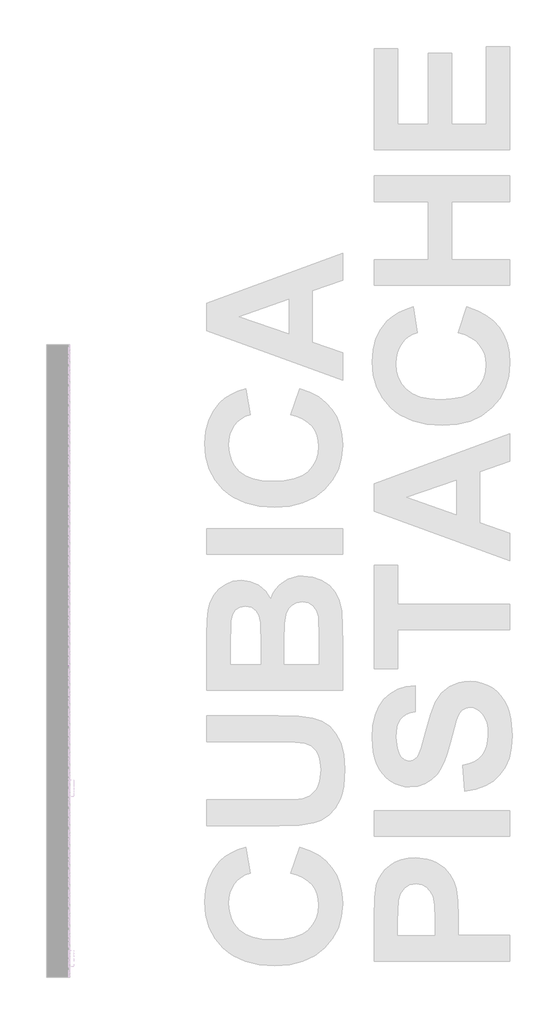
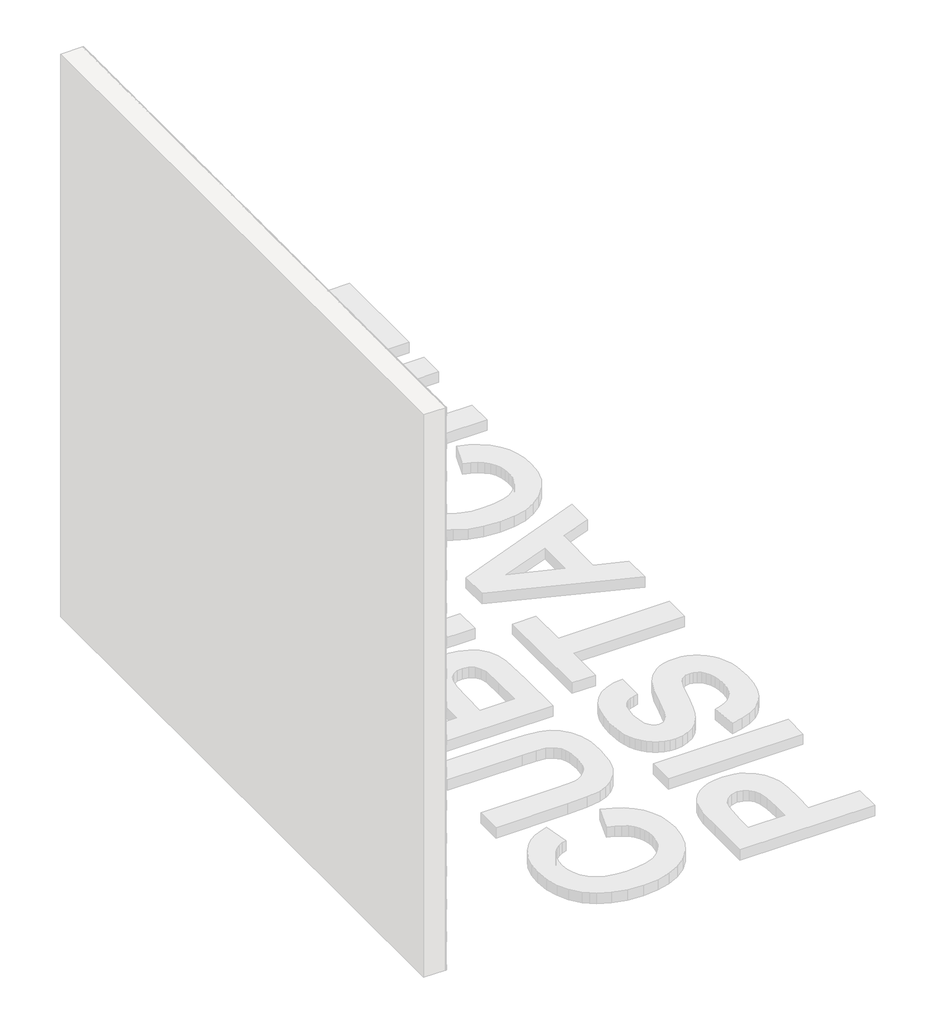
# One storey, part 89 of 121: 145 proxies.
"""IFC4 building model written with IfcOpenShell, lengths in millimetres."""

from ifc_helpers import new_model, si_unit, origin, place, context, project, spatial, transform, mapped, element, save
from components import generic_models_b2b2c5c1, generic_models_9bf73f6f, generic_models_5d175859

model = new_model("IFC4")

# Units and contexts
model_context = context("Model", 3, world=origin())
ifc_project = project(units=[si_unit("LENGTHUNIT", "METRE", prefix="MILLI")], contexts=[model_context])

# Site, building, storey
site = spatial("IfcSite", under=ifc_project)
building = spatial("IfcBuilding", under=site)
storey = spatial("IfcBuildingStorey", under=building, Name="PORTOBELLO - SHOWROOM", Elevation=0.0)

# Proxies
placement = place(None, origin())
generic_models_shape = generic_models_b2b2c5c1(model_context)
element("IfcBuildingElementProxy", 1, Name="PBSHOP - CUBICA PISTACHE 4,8X8,3 : CUBICA PISTACHE - POSIÇÃO 01", ObjectType="PBSHOP - CUBICA PISTACHE 4,8X8,3 : CUBICA PISTACHE - POSIÇÃO 01", at=placement, inside=storey, context=model_context, shape_type="MappedRepresentation", body=[
    mapped(generic_models_shape, transform((150369.5341846, 14068.297515, 1775.984211), x_axis=(0.0, 1.0, 0.0), y_axis=(0.0, 0.0, 1.0), z_axis=(1.0, 0.0, 0.0))),
])
element("IfcBuildingElementProxy", 2, Name="PBSHOP - CUBICA PISTACHE 4,8X8,3 : CUBICA PISTACHE - POSIÇÃO 01", ObjectType="PBSHOP - CUBICA PISTACHE 4,8X8,3 : CUBICA PISTACHE - POSIÇÃO 01", at=placement, inside=storey, context=model_context, shape_type="MappedRepresentation", body=[
    mapped(generic_models_shape, transform((150369.5341846, 14159.1367842, 1775.984211), x_axis=(0.0, 1.0, 0.0), y_axis=(0.0, 0.0, 1.0), z_axis=(1.0, 0.0, 0.0))),
])
element("IfcBuildingElementProxy", 3, Name="PBSHOP - CUBICA PISTACHE 4,8X8,3 : CUBICA PISTACHE - POSIÇÃO 01", ObjectType="PBSHOP - CUBICA PISTACHE 4,8X8,3 : CUBICA PISTACHE - POSIÇÃO 01", at=placement, inside=storey, context=model_context, shape_type="MappedRepresentation", body=[
    mapped(generic_models_shape, transform((150369.5341846, 14249.9760535, 1775.984211), x_axis=(0.0, 1.0, 0.0), y_axis=(0.0, 0.0, 1.0), z_axis=(1.0, 0.0, 0.0))),
])
element("IfcBuildingElementProxy", 4, Name="PBSHOP - CUBICA PISTACHE 4,8X8,3 : CUBICA PISTACHE - POSIÇÃO 01", ObjectType="PBSHOP - CUBICA PISTACHE 4,8X8,3 : CUBICA PISTACHE - POSIÇÃO 01", at=placement, inside=storey, context=model_context, shape_type="MappedRepresentation", body=[
    mapped(generic_models_shape, transform((150369.5341846, 14340.8153227, 1775.984211), x_axis=(0.0, 1.0, 0.0), y_axis=(0.0, 0.0, 1.0), z_axis=(1.0, 0.0, 0.0))),
])
element("IfcBuildingElementProxy", 5, Name="PBSHOP - CUBICA PISTACHE 4,8X8,3 : CUBICA PISTACHE - POSIÇÃO 01", ObjectType="PBSHOP - CUBICA PISTACHE 4,8X8,3 : CUBICA PISTACHE - POSIÇÃO 01", at=placement, inside=storey, context=model_context, shape_type="MappedRepresentation", body=[
    mapped(generic_models_shape, transform((150369.5341846, 14431.654592, 1775.984211), x_axis=(0.0, 1.0, 0.0), y_axis=(0.0, 0.0, 1.0), z_axis=(1.0, 0.0, 0.0))),
])
element("IfcBuildingElementProxy", 6, Name="PBSHOP - CUBICA PISTACHE 4,8X8,3 : CUBICA PISTACHE - POSIÇÃO 01", ObjectType="PBSHOP - CUBICA PISTACHE 4,8X8,3 : CUBICA PISTACHE - POSIÇÃO 01", at=placement, inside=storey, context=model_context, shape_type="MappedRepresentation", body=[
    mapped(generic_models_shape, transform((150369.5341846, 14522.4938612, 1775.984211), x_axis=(0.0, 1.0, 0.0), y_axis=(0.0, 0.0, 1.0), z_axis=(1.0, 0.0, 0.0))),
])
element("IfcBuildingElementProxy", 7, Name="PBSHOP - CUBICA PISTACHE 4,8X8,3 : CUBICA PISTACHE - POSIÇÃO 01", ObjectType="PBSHOP - CUBICA PISTACHE 4,8X8,3 : CUBICA PISTACHE - POSIÇÃO 01", at=placement, inside=storey, context=model_context, shape_type="MappedRepresentation", body=[
    mapped(generic_models_shape, transform((150369.5341846, 14613.3331304, 1775.984211), x_axis=(0.0, 1.0, 0.0), y_axis=(0.0, 0.0, 1.0), z_axis=(1.0, 0.0, 0.0))),
])
element("IfcBuildingElementProxy", 8, Name="PBSHOP - CUBICA PISTACHE 4,8X8,3 : CUBICA PISTACHE - POSIÇÃO 01", ObjectType="PBSHOP - CUBICA PISTACHE 4,8X8,3 : CUBICA PISTACHE - POSIÇÃO 01", at=placement, inside=storey, context=model_context, shape_type="MappedRepresentation", body=[
    mapped(generic_models_shape, transform((150369.5341846, 14704.1723997, 1775.984211), x_axis=(0.0, 1.0, 0.0), y_axis=(0.0, 0.0, 1.0), z_axis=(1.0, 0.0, 0.0))),
])
element("IfcBuildingElementProxy", 9, Name="PBSHOP - CUBICA PISTACHE 4,8X8,3 : CUBICA PISTACHE - POSIÇÃO 01", ObjectType="PBSHOP - CUBICA PISTACHE 4,8X8,3 : CUBICA PISTACHE - POSIÇÃO 01", at=placement, inside=storey, context=model_context, shape_type="MappedRepresentation", body=[
    mapped(generic_models_shape, transform((150369.5341846, 14795.0116689, 1775.984211), x_axis=(0.0, 1.0, 0.0), y_axis=(0.0, 0.0, 1.0), z_axis=(1.0, 0.0, 0.0))),
])
element("IfcBuildingElementProxy", 10, Name="PBSHOP - CUBICA PISTACHE 4,8X8,3 : CUBICA PISTACHE - POSIÇÃO 01", ObjectType="PBSHOP - CUBICA PISTACHE 4,8X8,3 : CUBICA PISTACHE - POSIÇÃO 01", at=placement, inside=storey, context=model_context, shape_type="MappedRepresentation", body=[
    mapped(generic_models_shape, transform((150369.5341846, 14885.8509382, 1775.984211), x_axis=(0.0, 1.0, 0.0), y_axis=(0.0, 0.0, 1.0), z_axis=(1.0, 0.0, 0.0))),
])
element("IfcBuildingElementProxy", 11, Name="PBSHOP - CUBICA PISTACHE 4,8X8,3 : CUBICA PISTACHE - POSIÇÃO 01", ObjectType="PBSHOP - CUBICA PISTACHE 4,8X8,3 : CUBICA PISTACHE - POSIÇÃO 01", at=placement, inside=storey, context=model_context, shape_type="MappedRepresentation", body=[
    mapped(generic_models_shape, transform((150369.5341846, 14976.6902074, 1775.984211), x_axis=(0.0, 1.0, 0.0), y_axis=(0.0, 0.0, 1.0), z_axis=(1.0, 0.0, 0.0))),
])
element("IfcBuildingElementProxy", 12, Name="PBSHOP - CUBICA PISTACHE 4,8X8,3 : CUBICA PISTACHE - POSIÇÃO 01", ObjectType="PBSHOP - CUBICA PISTACHE 4,8X8,3 : CUBICA PISTACHE - POSIÇÃO 01", at=placement, inside=storey, context=model_context, shape_type="MappedRepresentation", body=[
    mapped(generic_models_shape, transform((150369.5341846, 14022.8778804, 1854.9188494), x_axis=(0.0, 1.0, 0.0), y_axis=(0.0, 0.0, 1.0), z_axis=(1.0, 0.0, 0.0))),
])
element("IfcBuildingElementProxy", 13, Name="PBSHOP - CUBICA PISTACHE 4,8X8,3 : CUBICA PISTACHE - POSIÇÃO 01", ObjectType="PBSHOP - CUBICA PISTACHE 4,8X8,3 : CUBICA PISTACHE - POSIÇÃO 01", at=placement, inside=storey, context=model_context, shape_type="MappedRepresentation", body=[
    mapped(generic_models_shape, transform((150369.5341846, 14113.7171496, 1854.9188494), x_axis=(0.0, 1.0, 0.0), y_axis=(0.0, 0.0, 1.0), z_axis=(1.0, 0.0, 0.0))),
])
element("IfcBuildingElementProxy", 14, Name="PBSHOP - CUBICA PISTACHE 4,8X8,3 : CUBICA PISTACHE - POSIÇÃO 01", ObjectType="PBSHOP - CUBICA PISTACHE 4,8X8,3 : CUBICA PISTACHE - POSIÇÃO 01", at=placement, inside=storey, context=model_context, shape_type="MappedRepresentation", body=[
    mapped(generic_models_shape, transform((150369.5341846, 14204.5564189, 1854.9188494), x_axis=(0.0, 1.0, 0.0), y_axis=(0.0, 0.0, 1.0), z_axis=(1.0, 0.0, 0.0))),
])
element("IfcBuildingElementProxy", 15, Name="PBSHOP - CUBICA PISTACHE 4,8X8,3 : CUBICA PISTACHE - POSIÇÃO 01", ObjectType="PBSHOP - CUBICA PISTACHE 4,8X8,3 : CUBICA PISTACHE - POSIÇÃO 01", at=placement, inside=storey, context=model_context, shape_type="MappedRepresentation", body=[
    mapped(generic_models_shape, transform((150369.5341846, 14295.3956881, 1854.9188494), x_axis=(0.0, 1.0, 0.0), y_axis=(0.0, 0.0, 1.0), z_axis=(1.0, 0.0, 0.0))),
])
element("IfcBuildingElementProxy", 16, Name="PBSHOP - CUBICA PISTACHE 4,8X8,3 : CUBICA PISTACHE - POSIÇÃO 01", ObjectType="PBSHOP - CUBICA PISTACHE 4,8X8,3 : CUBICA PISTACHE - POSIÇÃO 01", at=placement, inside=storey, context=model_context, shape_type="MappedRepresentation", body=[
    mapped(generic_models_shape, transform((150369.5341846, 14386.2349573, 1854.9188494), x_axis=(0.0, 1.0, 0.0), y_axis=(0.0, 0.0, 1.0), z_axis=(1.0, 0.0, 0.0))),
])
element("IfcBuildingElementProxy", 17, Name="PBSHOP - CUBICA PISTACHE 4,8X8,3 : CUBICA PISTACHE - POSIÇÃO 01", ObjectType="PBSHOP - CUBICA PISTACHE 4,8X8,3 : CUBICA PISTACHE - POSIÇÃO 01", at=placement, inside=storey, context=model_context, shape_type="MappedRepresentation", body=[
    mapped(generic_models_shape, transform((150369.5341846, 14477.0742266, 1854.9188494), x_axis=(0.0, 1.0, 0.0), y_axis=(0.0, 0.0, 1.0), z_axis=(1.0, 0.0, 0.0))),
])
element("IfcBuildingElementProxy", 18, Name="PBSHOP - CUBICA PISTACHE 4,8X8,3 : CUBICA PISTACHE - POSIÇÃO 01", ObjectType="PBSHOP - CUBICA PISTACHE 4,8X8,3 : CUBICA PISTACHE - POSIÇÃO 01", at=placement, inside=storey, context=model_context, shape_type="MappedRepresentation", body=[
    mapped(generic_models_shape, transform((150369.5341846, 14567.9134958, 1854.9188494), x_axis=(0.0, 1.0, 0.0), y_axis=(0.0, 0.0, 1.0), z_axis=(1.0, 0.0, 0.0))),
])
element("IfcBuildingElementProxy", 19, Name="PBSHOP - CUBICA PISTACHE 4,8X8,3 : CUBICA PISTACHE - POSIÇÃO 01", ObjectType="PBSHOP - CUBICA PISTACHE 4,8X8,3 : CUBICA PISTACHE - POSIÇÃO 01", at=placement, inside=storey, context=model_context, shape_type="MappedRepresentation", body=[
    mapped(generic_models_shape, transform((150369.5341846, 14658.7527651, 1854.9188494), x_axis=(0.0, 1.0, 0.0), y_axis=(0.0, 0.0, 1.0), z_axis=(1.0, 0.0, 0.0))),
])
element("IfcBuildingElementProxy", 20, Name="PBSHOP - CUBICA PISTACHE 4,8X8,3 : CUBICA PISTACHE - POSIÇÃO 01", ObjectType="PBSHOP - CUBICA PISTACHE 4,8X8,3 : CUBICA PISTACHE - POSIÇÃO 01", at=placement, inside=storey, context=model_context, shape_type="MappedRepresentation", body=[
    mapped(generic_models_shape, transform((150369.5341846, 14749.5920343, 1854.9188494), x_axis=(0.0, 1.0, 0.0), y_axis=(0.0, 0.0, 1.0), z_axis=(1.0, 0.0, 0.0))),
])
element("IfcBuildingElementProxy", 21, Name="PBSHOP - CUBICA PISTACHE 4,8X8,3 : CUBICA PISTACHE - POSIÇÃO 01", ObjectType="PBSHOP - CUBICA PISTACHE 4,8X8,3 : CUBICA PISTACHE - POSIÇÃO 01", at=placement, inside=storey, context=model_context, shape_type="MappedRepresentation", body=[
    mapped(generic_models_shape, transform((150369.5341846, 14840.4313036, 1854.9188494), x_axis=(0.0, 1.0, 0.0), y_axis=(0.0, 0.0, 1.0), z_axis=(1.0, 0.0, 0.0))),
])
element("IfcBuildingElementProxy", 22, Name="PBSHOP - CUBICA PISTACHE 4,8X8,3 : CUBICA PISTACHE - POSIÇÃO 01", ObjectType="PBSHOP - CUBICA PISTACHE 4,8X8,3 : CUBICA PISTACHE - POSIÇÃO 01", at=placement, inside=storey, context=model_context, shape_type="MappedRepresentation", body=[
    mapped(generic_models_shape, transform((150369.5341846, 14931.2705728, 1854.9188494), x_axis=(0.0, 1.0, 0.0), y_axis=(0.0, 0.0, 1.0), z_axis=(1.0, 0.0, 0.0))),
])
element("IfcBuildingElementProxy", 23, Name="PBSHOP - CUBICA PISTACHE 4,8X8,3 : CUBICA PISTACHE - POSIÇÃO 01", ObjectType="PBSHOP - CUBICA PISTACHE 4,8X8,3 : CUBICA PISTACHE - POSIÇÃO 01", at=placement, inside=storey, context=model_context, shape_type="MappedRepresentation", body=[
    mapped(generic_models_shape, transform((150369.5341846, 14068.297515, 1933.8534878), x_axis=(0.0, 1.0, 0.0), y_axis=(0.0, 0.0, 1.0), z_axis=(1.0, 0.0, 0.0))),
])
element("IfcBuildingElementProxy", 24, Name="PBSHOP - CUBICA PISTACHE 4,8X8,3 : CUBICA PISTACHE - POSIÇÃO 01", ObjectType="PBSHOP - CUBICA PISTACHE 4,8X8,3 : CUBICA PISTACHE - POSIÇÃO 01", at=placement, inside=storey, context=model_context, shape_type="MappedRepresentation", body=[
    mapped(generic_models_shape, transform((150369.5341846, 14159.1367842, 1933.8534878), x_axis=(0.0, 1.0, 0.0), y_axis=(0.0, 0.0, 1.0), z_axis=(1.0, 0.0, 0.0))),
])
element("IfcBuildingElementProxy", 25, Name="PBSHOP - CUBICA PISTACHE 4,8X8,3 : CUBICA PISTACHE - POSIÇÃO 01", ObjectType="PBSHOP - CUBICA PISTACHE 4,8X8,3 : CUBICA PISTACHE - POSIÇÃO 01", at=placement, inside=storey, context=model_context, shape_type="MappedRepresentation", body=[
    mapped(generic_models_shape, transform((150369.5341846, 14249.9760535, 1933.8534878), x_axis=(0.0, 1.0, 0.0), y_axis=(0.0, 0.0, 1.0), z_axis=(1.0, 0.0, 0.0))),
])
element("IfcBuildingElementProxy", 26, Name="PBSHOP - CUBICA PISTACHE 4,8X8,3 : CUBICA PISTACHE - POSIÇÃO 01", ObjectType="PBSHOP - CUBICA PISTACHE 4,8X8,3 : CUBICA PISTACHE - POSIÇÃO 01", at=placement, inside=storey, context=model_context, shape_type="MappedRepresentation", body=[
    mapped(generic_models_shape, transform((150369.5341846, 14340.8153227, 1933.8534878), x_axis=(0.0, 1.0, 0.0), y_axis=(0.0, 0.0, 1.0), z_axis=(1.0, 0.0, 0.0))),
])
element("IfcBuildingElementProxy", 27, Name="PBSHOP - CUBICA PISTACHE 4,8X8,3 : CUBICA PISTACHE - POSIÇÃO 01", ObjectType="PBSHOP - CUBICA PISTACHE 4,8X8,3 : CUBICA PISTACHE - POSIÇÃO 01", at=placement, inside=storey, context=model_context, shape_type="MappedRepresentation", body=[
    mapped(generic_models_shape, transform((150369.5341846, 14431.654592, 1933.8534878), x_axis=(0.0, 1.0, 0.0), y_axis=(0.0, 0.0, 1.0), z_axis=(1.0, 0.0, 0.0))),
])
element("IfcBuildingElementProxy", 28, Name="PBSHOP - CUBICA PISTACHE 4,8X8,3 : CUBICA PISTACHE - POSIÇÃO 01", ObjectType="PBSHOP - CUBICA PISTACHE 4,8X8,3 : CUBICA PISTACHE - POSIÇÃO 01", at=placement, inside=storey, context=model_context, shape_type="MappedRepresentation", body=[
    mapped(generic_models_shape, transform((150369.5341846, 14522.4938612, 1933.8534878), x_axis=(0.0, 1.0, 0.0), y_axis=(0.0, 0.0, 1.0), z_axis=(1.0, 0.0, 0.0))),
])
element("IfcBuildingElementProxy", 29, Name="PBSHOP - CUBICA PISTACHE 4,8X8,3 : CUBICA PISTACHE - POSIÇÃO 01", ObjectType="PBSHOP - CUBICA PISTACHE 4,8X8,3 : CUBICA PISTACHE - POSIÇÃO 01", at=placement, inside=storey, context=model_context, shape_type="MappedRepresentation", body=[
    mapped(generic_models_shape, transform((150369.5341846, 14613.3331304, 1933.8534878), x_axis=(0.0, 1.0, 0.0), y_axis=(0.0, 0.0, 1.0), z_axis=(1.0, 0.0, 0.0))),
])
element("IfcBuildingElementProxy", 30, Name="PBSHOP - CUBICA PISTACHE 4,8X8,3 : CUBICA PISTACHE - POSIÇÃO 01", ObjectType="PBSHOP - CUBICA PISTACHE 4,8X8,3 : CUBICA PISTACHE - POSIÇÃO 01", at=placement, inside=storey, context=model_context, shape_type="MappedRepresentation", body=[
    mapped(generic_models_shape, transform((150369.5341846, 14704.1723997, 1933.8534878), x_axis=(0.0, 1.0, 0.0), y_axis=(0.0, 0.0, 1.0), z_axis=(1.0, 0.0, 0.0))),
])
element("IfcBuildingElementProxy", 31, Name="PBSHOP - CUBICA PISTACHE 4,8X8,3 : CUBICA PISTACHE - POSIÇÃO 01", ObjectType="PBSHOP - CUBICA PISTACHE 4,8X8,3 : CUBICA PISTACHE - POSIÇÃO 01", at=placement, inside=storey, context=model_context, shape_type="MappedRepresentation", body=[
    mapped(generic_models_shape, transform((150369.5341846, 14795.0116689, 1933.8534878), x_axis=(0.0, 1.0, 0.0), y_axis=(0.0, 0.0, 1.0), z_axis=(1.0, 0.0, 0.0))),
])
element("IfcBuildingElementProxy", 32, Name="PBSHOP - CUBICA PISTACHE 4,8X8,3 : CUBICA PISTACHE - POSIÇÃO 01", ObjectType="PBSHOP - CUBICA PISTACHE 4,8X8,3 : CUBICA PISTACHE - POSIÇÃO 01", at=placement, inside=storey, context=model_context, shape_type="MappedRepresentation", body=[
    mapped(generic_models_shape, transform((150369.5341846, 14885.8509382, 1933.8534878), x_axis=(0.0, 1.0, 0.0), y_axis=(0.0, 0.0, 1.0), z_axis=(1.0, 0.0, 0.0))),
])
element("IfcBuildingElementProxy", 33, Name="PBSHOP - CUBICA PISTACHE 4,8X8,3 : CUBICA PISTACHE - POSIÇÃO 01", ObjectType="PBSHOP - CUBICA PISTACHE 4,8X8,3 : CUBICA PISTACHE - POSIÇÃO 01", at=placement, inside=storey, context=model_context, shape_type="MappedRepresentation", body=[
    mapped(generic_models_shape, transform((150369.5341846, 14976.6902074, 1933.8534878), x_axis=(0.0, 1.0, 0.0), y_axis=(0.0, 0.0, 1.0), z_axis=(1.0, 0.0, 0.0))),
])
element("IfcBuildingElementProxy", 34, Name="PBSHOP - CUBICA PISTACHE 4,8X8,3 : CUBICA PISTACHE - POSIÇÃO 01", ObjectType="PBSHOP - CUBICA PISTACHE 4,8X8,3 : CUBICA PISTACHE - POSIÇÃO 01", at=placement, inside=storey, context=model_context, shape_type="MappedRepresentation", body=[
    mapped(generic_models_shape, transform((150369.5341846, 14022.8778804, 2012.7881262), x_axis=(0.0, 1.0, 0.0), y_axis=(0.0, 0.0, 1.0), z_axis=(1.0, 0.0, 0.0))),
])
element("IfcBuildingElementProxy", 35, Name="PBSHOP - CUBICA PISTACHE 4,8X8,3 : CUBICA PISTACHE - POSIÇÃO 01", ObjectType="PBSHOP - CUBICA PISTACHE 4,8X8,3 : CUBICA PISTACHE - POSIÇÃO 01", at=placement, inside=storey, context=model_context, shape_type="MappedRepresentation", body=[
    mapped(generic_models_shape, transform((150369.5341846, 14113.7171496, 2012.7881262), x_axis=(0.0, 1.0, 0.0), y_axis=(0.0, 0.0, 1.0), z_axis=(1.0, 0.0, 0.0))),
])
element("IfcBuildingElementProxy", 36, Name="PBSHOP - CUBICA PISTACHE 4,8X8,3 : CUBICA PISTACHE - POSIÇÃO 01", ObjectType="PBSHOP - CUBICA PISTACHE 4,8X8,3 : CUBICA PISTACHE - POSIÇÃO 01", at=placement, inside=storey, context=model_context, shape_type="MappedRepresentation", body=[
    mapped(generic_models_shape, transform((150369.5341846, 14204.5564189, 2012.7881262), x_axis=(0.0, 1.0, 0.0), y_axis=(0.0, 0.0, 1.0), z_axis=(1.0, 0.0, 0.0))),
])
element("IfcBuildingElementProxy", 37, Name="PBSHOP - CUBICA PISTACHE 4,8X8,3 : CUBICA PISTACHE - POSIÇÃO 01", ObjectType="PBSHOP - CUBICA PISTACHE 4,8X8,3 : CUBICA PISTACHE - POSIÇÃO 01", at=placement, inside=storey, context=model_context, shape_type="MappedRepresentation", body=[
    mapped(generic_models_shape, transform((150369.5341846, 14295.3956881, 2012.7881262), x_axis=(0.0, 1.0, 0.0), y_axis=(0.0, 0.0, 1.0), z_axis=(1.0, 0.0, 0.0))),
])
element("IfcBuildingElementProxy", 38, Name="PBSHOP - CUBICA PISTACHE 4,8X8,3 : CUBICA PISTACHE - POSIÇÃO 01", ObjectType="PBSHOP - CUBICA PISTACHE 4,8X8,3 : CUBICA PISTACHE - POSIÇÃO 01", at=placement, inside=storey, context=model_context, shape_type="MappedRepresentation", body=[
    mapped(generic_models_shape, transform((150369.5341846, 14386.2349573, 2012.7881262), x_axis=(0.0, 1.0, 0.0), y_axis=(0.0, 0.0, 1.0), z_axis=(1.0, 0.0, 0.0))),
])
element("IfcBuildingElementProxy", 39, Name="PBSHOP - CUBICA PISTACHE 4,8X8,3 : CUBICA PISTACHE - POSIÇÃO 01", ObjectType="PBSHOP - CUBICA PISTACHE 4,8X8,3 : CUBICA PISTACHE - POSIÇÃO 01", at=placement, inside=storey, context=model_context, shape_type="MappedRepresentation", body=[
    mapped(generic_models_shape, transform((150369.5341846, 14477.0742266, 2012.7881262), x_axis=(0.0, 1.0, 0.0), y_axis=(0.0, 0.0, 1.0), z_axis=(1.0, 0.0, 0.0))),
])
element("IfcBuildingElementProxy", 40, Name="PBSHOP - CUBICA PISTACHE 4,8X8,3 : CUBICA PISTACHE - POSIÇÃO 01", ObjectType="PBSHOP - CUBICA PISTACHE 4,8X8,3 : CUBICA PISTACHE - POSIÇÃO 01", at=placement, inside=storey, context=model_context, shape_type="MappedRepresentation", body=[
    mapped(generic_models_shape, transform((150369.5341846, 14567.9134958, 2012.7881262), x_axis=(0.0, 1.0, 0.0), y_axis=(0.0, 0.0, 1.0), z_axis=(1.0, 0.0, 0.0))),
])
element("IfcBuildingElementProxy", 41, Name="PBSHOP - CUBICA PISTACHE 4,8X8,3 : CUBICA PISTACHE - POSIÇÃO 01", ObjectType="PBSHOP - CUBICA PISTACHE 4,8X8,3 : CUBICA PISTACHE - POSIÇÃO 01", at=placement, inside=storey, context=model_context, shape_type="MappedRepresentation", body=[
    mapped(generic_models_shape, transform((150369.5341846, 14658.7527651, 2012.7881262), x_axis=(0.0, 1.0, 0.0), y_axis=(0.0, 0.0, 1.0), z_axis=(1.0, 0.0, 0.0))),
])
element("IfcBuildingElementProxy", 42, Name="PBSHOP - CUBICA PISTACHE 4,8X8,3 : CUBICA PISTACHE - POSIÇÃO 01", ObjectType="PBSHOP - CUBICA PISTACHE 4,8X8,3 : CUBICA PISTACHE - POSIÇÃO 01", at=placement, inside=storey, context=model_context, shape_type="MappedRepresentation", body=[
    mapped(generic_models_shape, transform((150369.5341846, 14749.5920343, 2012.7881262), x_axis=(0.0, 1.0, 0.0), y_axis=(0.0, 0.0, 1.0), z_axis=(1.0, 0.0, 0.0))),
])
element("IfcBuildingElementProxy", 43, Name="PBSHOP - CUBICA PISTACHE 4,8X8,3 : CUBICA PISTACHE - POSIÇÃO 01", ObjectType="PBSHOP - CUBICA PISTACHE 4,8X8,3 : CUBICA PISTACHE - POSIÇÃO 01", at=placement, inside=storey, context=model_context, shape_type="MappedRepresentation", body=[
    mapped(generic_models_shape, transform((150369.5341846, 14840.4313036, 2012.7881262), x_axis=(0.0, 1.0, 0.0), y_axis=(0.0, 0.0, 1.0), z_axis=(1.0, 0.0, 0.0))),
])
element("IfcBuildingElementProxy", 44, Name="PBSHOP - CUBICA PISTACHE 4,8X8,3 : CUBICA PISTACHE - POSIÇÃO 01", ObjectType="PBSHOP - CUBICA PISTACHE 4,8X8,3 : CUBICA PISTACHE - POSIÇÃO 01", at=placement, inside=storey, context=model_context, shape_type="MappedRepresentation", body=[
    mapped(generic_models_shape, transform((150369.5341846, 14931.2705728, 2012.7881262), x_axis=(0.0, 1.0, 0.0), y_axis=(0.0, 0.0, 1.0), z_axis=(1.0, 0.0, 0.0))),
])
element("IfcBuildingElementProxy", 45, Name="PBSHOP - CUBICA PISTACHE 4,8X8,3 : CUBICA PISTACHE - POSIÇÃO 01", ObjectType="PBSHOP - CUBICA PISTACHE 4,8X8,3 : CUBICA PISTACHE - POSIÇÃO 01", at=placement, inside=storey, context=model_context, shape_type="MappedRepresentation", body=[
    mapped(generic_models_shape, transform((150369.5341846, 14068.297515, 2091.7227645), x_axis=(0.0, 1.0, 0.0), y_axis=(0.0, 0.0, 1.0), z_axis=(1.0, 0.0, 0.0))),
])
generic_models_2_shape = generic_models_9bf73f6f(model_context)
element("IfcBuildingElementProxy", 46, Name="PBSHOP - CUBICA PISTACHE 4,8X8,3 : CUBICA PISTACHE - POSIÇÃO 03", ObjectType="PBSHOP - CUBICA PISTACHE 4,8X8,3 : CUBICA PISTACHE - POSIÇÃO 03", at=placement, inside=storey, context=model_context, shape_type="MappedRepresentation", body=[
    mapped(generic_models_2_shape, transform((150369.5341846, 14363.5272992, 1657.5410431), x_axis=(0.0, 1.0, 0.0), y_axis=(0.0, 0.0, 1.0), z_axis=(1.0, 0.0, 0.0))),
])
element("IfcBuildingElementProxy", 47, Name="PBSHOP - CUBICA PISTACHE 4,8X8,3 : CUBICA PISTACHE - POSIÇÃO 03", ObjectType="PBSHOP - CUBICA PISTACHE 4,8X8,3 : CUBICA PISTACHE - POSIÇÃO 03", at=placement, inside=storey, context=model_context, shape_type="MappedRepresentation", body=[
    mapped(generic_models_2_shape, transform((150369.5341846, 14454.3665684, 1657.5410431), x_axis=(0.0, 1.0, 0.0), y_axis=(0.0, 0.0, 1.0), z_axis=(1.0, 0.0, 0.0))),
])
element("IfcBuildingElementProxy", 48, Name="PBSHOP - CUBICA PISTACHE 4,8X8,3 : CUBICA PISTACHE - POSIÇÃO 03", ObjectType="PBSHOP - CUBICA PISTACHE 4,8X8,3 : CUBICA PISTACHE - POSIÇÃO 03", at=placement, inside=storey, context=model_context, shape_type="MappedRepresentation", body=[
    mapped(generic_models_2_shape, transform((150369.5341846, 14545.2058377, 1657.5410431), x_axis=(0.0, 1.0, 0.0), y_axis=(0.0, 0.0, 1.0), z_axis=(1.0, 0.0, 0.0))),
])
element("IfcBuildingElementProxy", 49, Name="PBSHOP - CUBICA PISTACHE 4,8X8,3 : CUBICA PISTACHE - POSIÇÃO 03", ObjectType="PBSHOP - CUBICA PISTACHE 4,8X8,3 : CUBICA PISTACHE - POSIÇÃO 03", at=placement, inside=storey, context=model_context, shape_type="MappedRepresentation", body=[
    mapped(generic_models_2_shape, transform((150369.5341846, 14636.0451069, 1657.5410431), x_axis=(0.0, 1.0, 0.0), y_axis=(0.0, 0.0, 1.0), z_axis=(1.0, 0.0, 0.0))),
])
element("IfcBuildingElementProxy", 50, Name="PBSHOP - CUBICA PISTACHE 4,8X8,3 : CUBICA PISTACHE - POSIÇÃO 03", ObjectType="PBSHOP - CUBICA PISTACHE 4,8X8,3 : CUBICA PISTACHE - POSIÇÃO 03", at=placement, inside=storey, context=model_context, shape_type="MappedRepresentation", body=[
    mapped(generic_models_2_shape, transform((150369.5341846, 14726.8843762, 1657.5410431), x_axis=(0.0, 1.0, 0.0), y_axis=(0.0, 0.0, 1.0), z_axis=(1.0, 0.0, 0.0))),
])
element("IfcBuildingElementProxy", 51, Name="PBSHOP - CUBICA PISTACHE 4,8X8,3 : CUBICA PISTACHE - POSIÇÃO 03", ObjectType="PBSHOP - CUBICA PISTACHE 4,8X8,3 : CUBICA PISTACHE - POSIÇÃO 03", at=placement, inside=storey, context=model_context, shape_type="MappedRepresentation", body=[
    mapped(generic_models_2_shape, transform((150369.5341846, 14817.7236454, 1657.5410431), x_axis=(0.0, 1.0, 0.0), y_axis=(0.0, 0.0, 1.0), z_axis=(1.0, 0.0, 0.0))),
])
element("IfcBuildingElementProxy", 52, Name="PBSHOP - CUBICA PISTACHE 4,8X8,3 : CUBICA PISTACHE - POSIÇÃO 03", ObjectType="PBSHOP - CUBICA PISTACHE 4,8X8,3 : CUBICA PISTACHE - POSIÇÃO 03", at=placement, inside=storey, context=model_context, shape_type="MappedRepresentation", body=[
    mapped(generic_models_2_shape, transform((150369.5341846, 14908.5629147, 1657.5410431), x_axis=(0.0, 1.0, 0.0), y_axis=(0.0, 0.0, 1.0), z_axis=(1.0, 0.0, 0.0))),
])
element("IfcBuildingElementProxy", 53, Name="PBSHOP - CUBICA PISTACHE 4,8X8,3 : CUBICA PISTACHE - POSIÇÃO 03", ObjectType="PBSHOP - CUBICA PISTACHE 4,8X8,3 : CUBICA PISTACHE - POSIÇÃO 03", at=placement, inside=storey, context=model_context, shape_type="MappedRepresentation", body=[
    mapped(generic_models_2_shape, transform((150369.5341846, 14999.4021839, 1657.5410431), x_axis=(0.0, 1.0, 0.0), y_axis=(0.0, 0.0, 1.0), z_axis=(1.0, 0.0, 0.0))),
])
element("IfcBuildingElementProxy", 54, Name="PBSHOP - CUBICA PISTACHE 4,8X8,3 : CUBICA PISTACHE - POSIÇÃO 03", ObjectType="PBSHOP - CUBICA PISTACHE 4,8X8,3 : CUBICA PISTACHE - POSIÇÃO 03", at=placement, inside=storey, context=model_context, shape_type="MappedRepresentation", body=[
    mapped(generic_models_2_shape, transform((150369.5341846, 14045.5898568, 1736.4756814), x_axis=(0.0, 1.0, 0.0), y_axis=(0.0, 0.0, 1.0), z_axis=(1.0, 0.0, 0.0))),
])
element("IfcBuildingElementProxy", 55, Name="PBSHOP - CUBICA PISTACHE 4,8X8,3 : CUBICA PISTACHE - POSIÇÃO 03", ObjectType="PBSHOP - CUBICA PISTACHE 4,8X8,3 : CUBICA PISTACHE - POSIÇÃO 03", at=placement, inside=storey, context=model_context, shape_type="MappedRepresentation", body=[
    mapped(generic_models_2_shape, transform((150369.5341846, 14136.4291261, 1736.4756814), x_axis=(0.0, 1.0, 0.0), y_axis=(0.0, 0.0, 1.0), z_axis=(1.0, 0.0, 0.0))),
])
element("IfcBuildingElementProxy", 56, Name="PBSHOP - CUBICA PISTACHE 4,8X8,3 : CUBICA PISTACHE - POSIÇÃO 03", ObjectType="PBSHOP - CUBICA PISTACHE 4,8X8,3 : CUBICA PISTACHE - POSIÇÃO 03", at=placement, inside=storey, context=model_context, shape_type="MappedRepresentation", body=[
    mapped(generic_models_2_shape, transform((150369.5341846, 14227.2683953, 1736.4756814), x_axis=(0.0, 1.0, 0.0), y_axis=(0.0, 0.0, 1.0), z_axis=(1.0, 0.0, 0.0))),
])
element("IfcBuildingElementProxy", 57, Name="PBSHOP - CUBICA PISTACHE 4,8X8,3 : CUBICA PISTACHE - POSIÇÃO 03", ObjectType="PBSHOP - CUBICA PISTACHE 4,8X8,3 : CUBICA PISTACHE - POSIÇÃO 03", at=placement, inside=storey, context=model_context, shape_type="MappedRepresentation", body=[
    mapped(generic_models_2_shape, transform((150369.5341846, 14318.1076646, 1736.4756814), x_axis=(0.0, 1.0, 0.0), y_axis=(0.0, 0.0, 1.0), z_axis=(1.0, 0.0, 0.0))),
])
element("IfcBuildingElementProxy", 58, Name="PBSHOP - CUBICA PISTACHE 4,8X8,3 : CUBICA PISTACHE - POSIÇÃO 03", ObjectType="PBSHOP - CUBICA PISTACHE 4,8X8,3 : CUBICA PISTACHE - POSIÇÃO 03", at=placement, inside=storey, context=model_context, shape_type="MappedRepresentation", body=[
    mapped(generic_models_2_shape, transform((150369.5341846, 14408.9469338, 1736.4756814), x_axis=(0.0, 1.0, 0.0), y_axis=(0.0, 0.0, 1.0), z_axis=(1.0, 0.0, 0.0))),
])
element("IfcBuildingElementProxy", 59, Name="PBSHOP - CUBICA PISTACHE 4,8X8,3 : CUBICA PISTACHE - POSIÇÃO 03", ObjectType="PBSHOP - CUBICA PISTACHE 4,8X8,3 : CUBICA PISTACHE - POSIÇÃO 03", at=placement, inside=storey, context=model_context, shape_type="MappedRepresentation", body=[
    mapped(generic_models_2_shape, transform((150369.5341846, 14499.7862031, 1736.4756814), x_axis=(0.0, 1.0, 0.0), y_axis=(0.0, 0.0, 1.0), z_axis=(1.0, 0.0, 0.0))),
])
element("IfcBuildingElementProxy", 60, Name="PBSHOP - CUBICA PISTACHE 4,8X8,3 : CUBICA PISTACHE - POSIÇÃO 03", ObjectType="PBSHOP - CUBICA PISTACHE 4,8X8,3 : CUBICA PISTACHE - POSIÇÃO 03", at=placement, inside=storey, context=model_context, shape_type="MappedRepresentation", body=[
    mapped(generic_models_2_shape, transform((150369.5341846, 14590.6254723, 1736.4756814), x_axis=(0.0, 1.0, 0.0), y_axis=(0.0, 0.0, 1.0), z_axis=(1.0, 0.0, 0.0))),
])
element("IfcBuildingElementProxy", 61, Name="PBSHOP - CUBICA PISTACHE 4,8X8,3 : CUBICA PISTACHE - POSIÇÃO 03", ObjectType="PBSHOP - CUBICA PISTACHE 4,8X8,3 : CUBICA PISTACHE - POSIÇÃO 03", at=placement, inside=storey, context=model_context, shape_type="MappedRepresentation", body=[
    mapped(generic_models_2_shape, transform((150369.5341846, 14681.4647415, 1736.4756814), x_axis=(0.0, 1.0, 0.0), y_axis=(0.0, 0.0, 1.0), z_axis=(1.0, 0.0, 0.0))),
])
element("IfcBuildingElementProxy", 62, Name="PBSHOP - CUBICA PISTACHE 4,8X8,3 : CUBICA PISTACHE - POSIÇÃO 03", ObjectType="PBSHOP - CUBICA PISTACHE 4,8X8,3 : CUBICA PISTACHE - POSIÇÃO 03", at=placement, inside=storey, context=model_context, shape_type="MappedRepresentation", body=[
    mapped(generic_models_2_shape, transform((150369.5341846, 14772.3040108, 1736.4756814), x_axis=(0.0, 1.0, 0.0), y_axis=(0.0, 0.0, 1.0), z_axis=(1.0, 0.0, 0.0))),
])
element("IfcBuildingElementProxy", 63, Name="PBSHOP - CUBICA PISTACHE 4,8X8,3 : CUBICA PISTACHE - POSIÇÃO 03", ObjectType="PBSHOP - CUBICA PISTACHE 4,8X8,3 : CUBICA PISTACHE - POSIÇÃO 03", at=placement, inside=storey, context=model_context, shape_type="MappedRepresentation", body=[
    mapped(generic_models_2_shape, transform((150369.5341846, 14863.14328, 1736.4756814), x_axis=(0.0, 1.0, 0.0), y_axis=(0.0, 0.0, 1.0), z_axis=(1.0, 0.0, 0.0))),
])
element("IfcBuildingElementProxy", 64, Name="PBSHOP - CUBICA PISTACHE 4,8X8,3 : CUBICA PISTACHE - POSIÇÃO 03", ObjectType="PBSHOP - CUBICA PISTACHE 4,8X8,3 : CUBICA PISTACHE - POSIÇÃO 03", at=placement, inside=storey, context=model_context, shape_type="MappedRepresentation", body=[
    mapped(generic_models_2_shape, transform((150369.5341846, 14953.9825493, 1736.4756814), x_axis=(0.0, 1.0, 0.0), y_axis=(0.0, 0.0, 1.0), z_axis=(1.0, 0.0, 0.0))),
])
element("IfcBuildingElementProxy", 65, Name="PBSHOP - CUBICA PISTACHE 4,8X8,3 : CUBICA PISTACHE - POSIÇÃO 03", ObjectType="PBSHOP - CUBICA PISTACHE 4,8X8,3 : CUBICA PISTACHE - POSIÇÃO 03", at=placement, inside=storey, context=model_context, shape_type="MappedRepresentation", body=[
    mapped(generic_models_2_shape, transform((150369.5341846, 14000.1702222, 1815.4103198), x_axis=(0.0, 1.0, 0.0), y_axis=(0.0, 0.0, 1.0), z_axis=(1.0, 0.0, 0.0))),
])
element("IfcBuildingElementProxy", 66, Name="PBSHOP - CUBICA PISTACHE 4,8X8,3 : CUBICA PISTACHE - POSIÇÃO 03", ObjectType="PBSHOP - CUBICA PISTACHE 4,8X8,3 : CUBICA PISTACHE - POSIÇÃO 03", at=placement, inside=storey, context=model_context, shape_type="MappedRepresentation", body=[
    mapped(generic_models_2_shape, transform((150369.5341846, 14091.0094915, 1815.4103198), x_axis=(0.0, 1.0, 0.0), y_axis=(0.0, 0.0, 1.0), z_axis=(1.0, 0.0, 0.0))),
])
element("IfcBuildingElementProxy", 67, Name="PBSHOP - CUBICA PISTACHE 4,8X8,3 : CUBICA PISTACHE - POSIÇÃO 03", ObjectType="PBSHOP - CUBICA PISTACHE 4,8X8,3 : CUBICA PISTACHE - POSIÇÃO 03", at=placement, inside=storey, context=model_context, shape_type="MappedRepresentation", body=[
    mapped(generic_models_2_shape, transform((150369.5341846, 14181.8487607, 1815.4103198), x_axis=(0.0, 1.0, 0.0), y_axis=(0.0, 0.0, 1.0), z_axis=(1.0, 0.0, 0.0))),
])
element("IfcBuildingElementProxy", 68, Name="PBSHOP - CUBICA PISTACHE 4,8X8,3 : CUBICA PISTACHE - POSIÇÃO 03", ObjectType="PBSHOP - CUBICA PISTACHE 4,8X8,3 : CUBICA PISTACHE - POSIÇÃO 03", at=placement, inside=storey, context=model_context, shape_type="MappedRepresentation", body=[
    mapped(generic_models_2_shape, transform((150369.5341846, 14272.6880299, 1815.4103198), x_axis=(0.0, 1.0, 0.0), y_axis=(0.0, 0.0, 1.0), z_axis=(1.0, 0.0, 0.0))),
])
element("IfcBuildingElementProxy", 69, Name="PBSHOP - CUBICA PISTACHE 4,8X8,3 : CUBICA PISTACHE - POSIÇÃO 03", ObjectType="PBSHOP - CUBICA PISTACHE 4,8X8,3 : CUBICA PISTACHE - POSIÇÃO 03", at=placement, inside=storey, context=model_context, shape_type="MappedRepresentation", body=[
    mapped(generic_models_2_shape, transform((150369.5341846, 14363.5272992, 1815.4103198), x_axis=(0.0, 1.0, 0.0), y_axis=(0.0, 0.0, 1.0), z_axis=(1.0, 0.0, 0.0))),
])
element("IfcBuildingElementProxy", 70, Name="PBSHOP - CUBICA PISTACHE 4,8X8,3 : CUBICA PISTACHE - POSIÇÃO 03", ObjectType="PBSHOP - CUBICA PISTACHE 4,8X8,3 : CUBICA PISTACHE - POSIÇÃO 03", at=placement, inside=storey, context=model_context, shape_type="MappedRepresentation", body=[
    mapped(generic_models_2_shape, transform((150369.5341846, 14454.3665684, 1815.4103198), x_axis=(0.0, 1.0, 0.0), y_axis=(0.0, 0.0, 1.0), z_axis=(1.0, 0.0, 0.0))),
])
element("IfcBuildingElementProxy", 71, Name="PBSHOP - CUBICA PISTACHE 4,8X8,3 : CUBICA PISTACHE - POSIÇÃO 03", ObjectType="PBSHOP - CUBICA PISTACHE 4,8X8,3 : CUBICA PISTACHE - POSIÇÃO 03", at=placement, inside=storey, context=model_context, shape_type="MappedRepresentation", body=[
    mapped(generic_models_2_shape, transform((150369.5341846, 14545.2058377, 1815.4103198), x_axis=(0.0, 1.0, 0.0), y_axis=(0.0, 0.0, 1.0), z_axis=(1.0, 0.0, 0.0))),
])
element("IfcBuildingElementProxy", 72, Name="PBSHOP - CUBICA PISTACHE 4,8X8,3 : CUBICA PISTACHE - POSIÇÃO 03", ObjectType="PBSHOP - CUBICA PISTACHE 4,8X8,3 : CUBICA PISTACHE - POSIÇÃO 03", at=placement, inside=storey, context=model_context, shape_type="MappedRepresentation", body=[
    mapped(generic_models_2_shape, transform((150369.5341846, 14636.0451069, 1815.4103198), x_axis=(0.0, 1.0, 0.0), y_axis=(0.0, 0.0, 1.0), z_axis=(1.0, 0.0, 0.0))),
])
element("IfcBuildingElementProxy", 73, Name="PBSHOP - CUBICA PISTACHE 4,8X8,3 : CUBICA PISTACHE - POSIÇÃO 03", ObjectType="PBSHOP - CUBICA PISTACHE 4,8X8,3 : CUBICA PISTACHE - POSIÇÃO 03", at=placement, inside=storey, context=model_context, shape_type="MappedRepresentation", body=[
    mapped(generic_models_2_shape, transform((150369.5341846, 14726.8843762, 1815.4103198), x_axis=(0.0, 1.0, 0.0), y_axis=(0.0, 0.0, 1.0), z_axis=(1.0, 0.0, 0.0))),
])
element("IfcBuildingElementProxy", 74, Name="PBSHOP - CUBICA PISTACHE 4,8X8,3 : CUBICA PISTACHE - POSIÇÃO 03", ObjectType="PBSHOP - CUBICA PISTACHE 4,8X8,3 : CUBICA PISTACHE - POSIÇÃO 03", at=placement, inside=storey, context=model_context, shape_type="MappedRepresentation", body=[
    mapped(generic_models_2_shape, transform((150369.5341846, 14817.7236454, 1815.4103198), x_axis=(0.0, 1.0, 0.0), y_axis=(0.0, 0.0, 1.0), z_axis=(1.0, 0.0, 0.0))),
])
element("IfcBuildingElementProxy", 75, Name="PBSHOP - CUBICA PISTACHE 4,8X8,3 : CUBICA PISTACHE - POSIÇÃO 03", ObjectType="PBSHOP - CUBICA PISTACHE 4,8X8,3 : CUBICA PISTACHE - POSIÇÃO 03", at=placement, inside=storey, context=model_context, shape_type="MappedRepresentation", body=[
    mapped(generic_models_2_shape, transform((150369.5341846, 14908.5629147, 1815.4103198), x_axis=(0.0, 1.0, 0.0), y_axis=(0.0, 0.0, 1.0), z_axis=(1.0, 0.0, 0.0))),
])
element("IfcBuildingElementProxy", 76, Name="PBSHOP - CUBICA PISTACHE 4,8X8,3 : CUBICA PISTACHE - POSIÇÃO 03", ObjectType="PBSHOP - CUBICA PISTACHE 4,8X8,3 : CUBICA PISTACHE - POSIÇÃO 03", at=placement, inside=storey, context=model_context, shape_type="MappedRepresentation", body=[
    mapped(generic_models_2_shape, transform((150369.5341846, 14999.4021839, 1815.4103198), x_axis=(0.0, 1.0, 0.0), y_axis=(0.0, 0.0, 1.0), z_axis=(1.0, 0.0, 0.0))),
])
element("IfcBuildingElementProxy", 77, Name="PBSHOP - CUBICA PISTACHE 4,8X8,3 : CUBICA PISTACHE - POSIÇÃO 03", ObjectType="PBSHOP - CUBICA PISTACHE 4,8X8,3 : CUBICA PISTACHE - POSIÇÃO 03", at=placement, inside=storey, context=model_context, shape_type="MappedRepresentation", body=[
    mapped(generic_models_2_shape, transform((150369.5341846, 14045.5898568, 1894.3449582), x_axis=(0.0, 1.0, 0.0), y_axis=(0.0, 0.0, 1.0), z_axis=(1.0, 0.0, 0.0))),
])
element("IfcBuildingElementProxy", 78, Name="PBSHOP - CUBICA PISTACHE 4,8X8,3 : CUBICA PISTACHE - POSIÇÃO 03", ObjectType="PBSHOP - CUBICA PISTACHE 4,8X8,3 : CUBICA PISTACHE - POSIÇÃO 03", at=placement, inside=storey, context=model_context, shape_type="MappedRepresentation", body=[
    mapped(generic_models_2_shape, transform((150369.5341846, 14136.4291261, 1894.3449582), x_axis=(0.0, 1.0, 0.0), y_axis=(0.0, 0.0, 1.0), z_axis=(1.0, 0.0, 0.0))),
])
element("IfcBuildingElementProxy", 79, Name="PBSHOP - CUBICA PISTACHE 4,8X8,3 : CUBICA PISTACHE - POSIÇÃO 03", ObjectType="PBSHOP - CUBICA PISTACHE 4,8X8,3 : CUBICA PISTACHE - POSIÇÃO 03", at=placement, inside=storey, context=model_context, shape_type="MappedRepresentation", body=[
    mapped(generic_models_2_shape, transform((150369.5341846, 14227.2683953, 1894.3449582), x_axis=(0.0, 1.0, 0.0), y_axis=(0.0, 0.0, 1.0), z_axis=(1.0, 0.0, 0.0))),
])
element("IfcBuildingElementProxy", 80, Name="PBSHOP - CUBICA PISTACHE 4,8X8,3 : CUBICA PISTACHE - POSIÇÃO 03", ObjectType="PBSHOP - CUBICA PISTACHE 4,8X8,3 : CUBICA PISTACHE - POSIÇÃO 03", at=placement, inside=storey, context=model_context, shape_type="MappedRepresentation", body=[
    mapped(generic_models_2_shape, transform((150369.5341846, 14318.1076646, 1894.3449582), x_axis=(0.0, 1.0, 0.0), y_axis=(0.0, 0.0, 1.0), z_axis=(1.0, 0.0, 0.0))),
])
element("IfcBuildingElementProxy", 81, Name="PBSHOP - CUBICA PISTACHE 4,8X8,3 : CUBICA PISTACHE - POSIÇÃO 03", ObjectType="PBSHOP - CUBICA PISTACHE 4,8X8,3 : CUBICA PISTACHE - POSIÇÃO 03", at=placement, inside=storey, context=model_context, shape_type="MappedRepresentation", body=[
    mapped(generic_models_2_shape, transform((150369.5341846, 14408.9469338, 1894.3449582), x_axis=(0.0, 1.0, 0.0), y_axis=(0.0, 0.0, 1.0), z_axis=(1.0, 0.0, 0.0))),
])
element("IfcBuildingElementProxy", 82, Name="PBSHOP - CUBICA PISTACHE 4,8X8,3 : CUBICA PISTACHE - POSIÇÃO 03", ObjectType="PBSHOP - CUBICA PISTACHE 4,8X8,3 : CUBICA PISTACHE - POSIÇÃO 03", at=placement, inside=storey, context=model_context, shape_type="MappedRepresentation", body=[
    mapped(generic_models_2_shape, transform((150369.5341846, 14499.7862031, 1894.3449582), x_axis=(0.0, 1.0, 0.0), y_axis=(0.0, 0.0, 1.0), z_axis=(1.0, 0.0, 0.0))),
])
element("IfcBuildingElementProxy", 83, Name="PBSHOP - CUBICA PISTACHE 4,8X8,3 : CUBICA PISTACHE - POSIÇÃO 03", ObjectType="PBSHOP - CUBICA PISTACHE 4,8X8,3 : CUBICA PISTACHE - POSIÇÃO 03", at=placement, inside=storey, context=model_context, shape_type="MappedRepresentation", body=[
    mapped(generic_models_2_shape, transform((150369.5341846, 14590.6254723, 1894.3449582), x_axis=(0.0, 1.0, 0.0), y_axis=(0.0, 0.0, 1.0), z_axis=(1.0, 0.0, 0.0))),
])
element("IfcBuildingElementProxy", 84, Name="PBSHOP - CUBICA PISTACHE 4,8X8,3 : CUBICA PISTACHE - POSIÇÃO 03", ObjectType="PBSHOP - CUBICA PISTACHE 4,8X8,3 : CUBICA PISTACHE - POSIÇÃO 03", at=placement, inside=storey, context=model_context, shape_type="MappedRepresentation", body=[
    mapped(generic_models_2_shape, transform((150369.5341846, 14681.4647415, 1894.3449582), x_axis=(0.0, 1.0, 0.0), y_axis=(0.0, 0.0, 1.0), z_axis=(1.0, 0.0, 0.0))),
])
element("IfcBuildingElementProxy", 85, Name="PBSHOP - CUBICA PISTACHE 4,8X8,3 : CUBICA PISTACHE - POSIÇÃO 03", ObjectType="PBSHOP - CUBICA PISTACHE 4,8X8,3 : CUBICA PISTACHE - POSIÇÃO 03", at=placement, inside=storey, context=model_context, shape_type="MappedRepresentation", body=[
    mapped(generic_models_2_shape, transform((150369.5341846, 14772.3040108, 1894.3449582), x_axis=(0.0, 1.0, 0.0), y_axis=(0.0, 0.0, 1.0), z_axis=(1.0, 0.0, 0.0))),
])
element("IfcBuildingElementProxy", 86, Name="PBSHOP - CUBICA PISTACHE 4,8X8,3 : CUBICA PISTACHE - POSIÇÃO 03", ObjectType="PBSHOP - CUBICA PISTACHE 4,8X8,3 : CUBICA PISTACHE - POSIÇÃO 03", at=placement, inside=storey, context=model_context, shape_type="MappedRepresentation", body=[
    mapped(generic_models_2_shape, transform((150369.5341846, 14863.14328, 1894.3449582), x_axis=(0.0, 1.0, 0.0), y_axis=(0.0, 0.0, 1.0), z_axis=(1.0, 0.0, 0.0))),
])
element("IfcBuildingElementProxy", 87, Name="PBSHOP - CUBICA PISTACHE 4,8X8,3 : CUBICA PISTACHE - POSIÇÃO 03", ObjectType="PBSHOP - CUBICA PISTACHE 4,8X8,3 : CUBICA PISTACHE - POSIÇÃO 03", at=placement, inside=storey, context=model_context, shape_type="MappedRepresentation", body=[
    mapped(generic_models_2_shape, transform((150369.5341846, 14953.9825493, 1894.3449582), x_axis=(0.0, 1.0, 0.0), y_axis=(0.0, 0.0, 1.0), z_axis=(1.0, 0.0, 0.0))),
])
element("IfcBuildingElementProxy", 88, Name="PBSHOP - CUBICA PISTACHE 4,8X8,3 : CUBICA PISTACHE - POSIÇÃO 03", ObjectType="PBSHOP - CUBICA PISTACHE 4,8X8,3 : CUBICA PISTACHE - POSIÇÃO 03", at=placement, inside=storey, context=model_context, shape_type="MappedRepresentation", body=[
    mapped(generic_models_2_shape, transform((150369.5341846, 14000.1702222, 1973.2795966), x_axis=(0.0, 1.0, 0.0), y_axis=(0.0, 0.0, 1.0), z_axis=(1.0, 0.0, 0.0))),
])
element("IfcBuildingElementProxy", 89, Name="PBSHOP - CUBICA PISTACHE 4,8X8,3 : CUBICA PISTACHE - POSIÇÃO 03", ObjectType="PBSHOP - CUBICA PISTACHE 4,8X8,3 : CUBICA PISTACHE - POSIÇÃO 03", at=placement, inside=storey, context=model_context, shape_type="MappedRepresentation", body=[
    mapped(generic_models_2_shape, transform((150369.5341846, 14091.0094915, 1973.2795966), x_axis=(0.0, 1.0, 0.0), y_axis=(0.0, 0.0, 1.0), z_axis=(1.0, 0.0, 0.0))),
])
element("IfcBuildingElementProxy", 90, Name="PBSHOP - CUBICA PISTACHE 4,8X8,3 : CUBICA PISTACHE - POSIÇÃO 03", ObjectType="PBSHOP - CUBICA PISTACHE 4,8X8,3 : CUBICA PISTACHE - POSIÇÃO 03", at=placement, inside=storey, context=model_context, shape_type="MappedRepresentation", body=[
    mapped(generic_models_2_shape, transform((150369.5341846, 14181.8487607, 1973.2795966), x_axis=(0.0, 1.0, 0.0), y_axis=(0.0, 0.0, 1.0), z_axis=(1.0, 0.0, 0.0))),
])
element("IfcBuildingElementProxy", 91, Name="PBSHOP - CUBICA PISTACHE 4,8X8,3 : CUBICA PISTACHE - POSIÇÃO 03", ObjectType="PBSHOP - CUBICA PISTACHE 4,8X8,3 : CUBICA PISTACHE - POSIÇÃO 03", at=placement, inside=storey, context=model_context, shape_type="MappedRepresentation", body=[
    mapped(generic_models_2_shape, transform((150369.5341846, 14272.6880299, 1973.2795966), x_axis=(0.0, 1.0, 0.0), y_axis=(0.0, 0.0, 1.0), z_axis=(1.0, 0.0, 0.0))),
])
element("IfcBuildingElementProxy", 92, Name="PBSHOP - CUBICA PISTACHE 4,8X8,3 : CUBICA PISTACHE - POSIÇÃO 03", ObjectType="PBSHOP - CUBICA PISTACHE 4,8X8,3 : CUBICA PISTACHE - POSIÇÃO 03", at=placement, inside=storey, context=model_context, shape_type="MappedRepresentation", body=[
    mapped(generic_models_2_shape, transform((150369.5341846, 14363.5272992, 1973.2795966), x_axis=(0.0, 1.0, 0.0), y_axis=(0.0, 0.0, 1.0), z_axis=(1.0, 0.0, 0.0))),
])
element("IfcBuildingElementProxy", 93, Name="PBSHOP - CUBICA PISTACHE 4,8X8,3 : CUBICA PISTACHE - POSIÇÃO 03", ObjectType="PBSHOP - CUBICA PISTACHE 4,8X8,3 : CUBICA PISTACHE - POSIÇÃO 03", at=placement, inside=storey, context=model_context, shape_type="MappedRepresentation", body=[
    mapped(generic_models_2_shape, transform((150369.5341846, 14454.3665684, 1973.2795966), x_axis=(0.0, 1.0, 0.0), y_axis=(0.0, 0.0, 1.0), z_axis=(1.0, 0.0, 0.0))),
])
element("IfcBuildingElementProxy", 94, Name="PBSHOP - CUBICA PISTACHE 4,8X8,3 : CUBICA PISTACHE - POSIÇÃO 03", ObjectType="PBSHOP - CUBICA PISTACHE 4,8X8,3 : CUBICA PISTACHE - POSIÇÃO 03", at=placement, inside=storey, context=model_context, shape_type="MappedRepresentation", body=[
    mapped(generic_models_2_shape, transform((150369.5341846, 14545.2058377, 1973.2795966), x_axis=(0.0, 1.0, 0.0), y_axis=(0.0, 0.0, 1.0), z_axis=(1.0, 0.0, 0.0))),
])
element("IfcBuildingElementProxy", 95, Name="PBSHOP - CUBICA PISTACHE 4,8X8,3 : CUBICA PISTACHE - POSIÇÃO 03", ObjectType="PBSHOP - CUBICA PISTACHE 4,8X8,3 : CUBICA PISTACHE - POSIÇÃO 03", at=placement, inside=storey, context=model_context, shape_type="MappedRepresentation", body=[
    mapped(generic_models_2_shape, transform((150369.5341846, 14636.0451069, 1973.2795966), x_axis=(0.0, 1.0, 0.0), y_axis=(0.0, 0.0, 1.0), z_axis=(1.0, 0.0, 0.0))),
])
element("IfcBuildingElementProxy", 96, Name="PBSHOP - CUBICA PISTACHE 4,8X8,3 : CUBICA PISTACHE - POSIÇÃO 03", ObjectType="PBSHOP - CUBICA PISTACHE 4,8X8,3 : CUBICA PISTACHE - POSIÇÃO 03", at=placement, inside=storey, context=model_context, shape_type="MappedRepresentation", body=[
    mapped(generic_models_2_shape, transform((150369.5341846, 14726.8843762, 1973.2795966), x_axis=(0.0, 1.0, 0.0), y_axis=(0.0, 0.0, 1.0), z_axis=(1.0, 0.0, 0.0))),
])
element("IfcBuildingElementProxy", 97, Name="PBSHOP - CUBICA PISTACHE 4,8X8,3 : CUBICA PISTACHE - POSIÇÃO 03", ObjectType="PBSHOP - CUBICA PISTACHE 4,8X8,3 : CUBICA PISTACHE - POSIÇÃO 03", at=placement, inside=storey, context=model_context, shape_type="MappedRepresentation", body=[
    mapped(generic_models_2_shape, transform((150369.5341846, 14817.7236454, 1973.2795966), x_axis=(0.0, 1.0, 0.0), y_axis=(0.0, 0.0, 1.0), z_axis=(1.0, 0.0, 0.0))),
])
element("IfcBuildingElementProxy", 98, Name="PBSHOP - CUBICA PISTACHE 4,8X8,3 : CUBICA PISTACHE - POSIÇÃO 03", ObjectType="PBSHOP - CUBICA PISTACHE 4,8X8,3 : CUBICA PISTACHE - POSIÇÃO 03", at=placement, inside=storey, context=model_context, shape_type="MappedRepresentation", body=[
    mapped(generic_models_2_shape, transform((150369.5341846, 14908.5629147, 1973.2795966), x_axis=(0.0, 1.0, 0.0), y_axis=(0.0, 0.0, 1.0), z_axis=(1.0, 0.0, 0.0))),
])
element("IfcBuildingElementProxy", 99, Name="PBSHOP - CUBICA PISTACHE 4,8X8,3 : CUBICA PISTACHE - POSIÇÃO 03", ObjectType="PBSHOP - CUBICA PISTACHE 4,8X8,3 : CUBICA PISTACHE - POSIÇÃO 03", at=placement, inside=storey, context=model_context, shape_type="MappedRepresentation", body=[
    mapped(generic_models_2_shape, transform((150369.5341846, 14999.4021839, 1973.2795966), x_axis=(0.0, 1.0, 0.0), y_axis=(0.0, 0.0, 1.0), z_axis=(1.0, 0.0, 0.0))),
])
generic_models_3_shape = generic_models_5d175859(model_context)
element("IfcBuildingElementProxy", 100, Name="PBSHOP - CUBICA PISTACHE 4,8X8,3 : CUBICA PISTACHE - POSIÇÃO 01", ObjectType="PBSHOP - CUBICA PISTACHE 4,8X8,3 : CUBICA PISTACHE - POSIÇÃO 01", at=placement, inside=storey, context=model_context, shape_type="MappedRepresentation", body=[
    mapped(generic_models_3_shape, transform((150369.5341846, 14022.8821987, 1775.984211), x_axis=(0.0, -1.0, 0.0), y_axis=(0.0, 0.0, -1.0), z_axis=(1.0, 0.0, 0.0))),
])
element("IfcBuildingElementProxy", 101, Name="PBSHOP - CUBICA PISTACHE 4,8X8,3 : CUBICA PISTACHE - POSIÇÃO 01", ObjectType="PBSHOP - CUBICA PISTACHE 4,8X8,3 : CUBICA PISTACHE - POSIÇÃO 01", at=placement, inside=storey, context=model_context, shape_type="MappedRepresentation", body=[
    mapped(generic_models_3_shape, transform((150369.5341846, 14113.7214679, 1775.984211), x_axis=(0.0, -1.0, 0.0), y_axis=(0.0, 0.0, -1.0), z_axis=(1.0, 0.0, 0.0))),
])
element("IfcBuildingElementProxy", 102, Name="PBSHOP - CUBICA PISTACHE 4,8X8,3 : CUBICA PISTACHE - POSIÇÃO 01", ObjectType="PBSHOP - CUBICA PISTACHE 4,8X8,3 : CUBICA PISTACHE - POSIÇÃO 01", at=placement, inside=storey, context=model_context, shape_type="MappedRepresentation", body=[
    mapped(generic_models_3_shape, transform((150369.5341846, 14204.5607372, 1775.984211), x_axis=(0.0, -1.0, 0.0), y_axis=(0.0, 0.0, -1.0), z_axis=(1.0, 0.0, 0.0))),
])
element("IfcBuildingElementProxy", 103, Name="PBSHOP - CUBICA PISTACHE 4,8X8,3 : CUBICA PISTACHE - POSIÇÃO 01", ObjectType="PBSHOP - CUBICA PISTACHE 4,8X8,3 : CUBICA PISTACHE - POSIÇÃO 01", at=placement, inside=storey, context=model_context, shape_type="MappedRepresentation", body=[
    mapped(generic_models_3_shape, transform((150369.5341846, 14295.4000064, 1775.984211), x_axis=(0.0, -1.0, 0.0), y_axis=(0.0, 0.0, -1.0), z_axis=(1.0, 0.0, 0.0))),
])
element("IfcBuildingElementProxy", 104, Name="PBSHOP - CUBICA PISTACHE 4,8X8,3 : CUBICA PISTACHE - POSIÇÃO 01", ObjectType="PBSHOP - CUBICA PISTACHE 4,8X8,3 : CUBICA PISTACHE - POSIÇÃO 01", at=placement, inside=storey, context=model_context, shape_type="MappedRepresentation", body=[
    mapped(generic_models_3_shape, transform((150369.5341846, 14386.2392757, 1775.984211), x_axis=(0.0, -1.0, 0.0), y_axis=(0.0, 0.0, -1.0), z_axis=(1.0, 0.0, 0.0))),
])
element("IfcBuildingElementProxy", 105, Name="PBSHOP - CUBICA PISTACHE 4,8X8,3 : CUBICA PISTACHE - POSIÇÃO 01", ObjectType="PBSHOP - CUBICA PISTACHE 4,8X8,3 : CUBICA PISTACHE - POSIÇÃO 01", at=placement, inside=storey, context=model_context, shape_type="MappedRepresentation", body=[
    mapped(generic_models_3_shape, transform((150369.5341846, 14477.0785449, 1775.984211), x_axis=(0.0, -1.0, 0.0), y_axis=(0.0, 0.0, -1.0), z_axis=(1.0, 0.0, 0.0))),
])
element("IfcBuildingElementProxy", 106, Name="PBSHOP - CUBICA PISTACHE 4,8X8,3 : CUBICA PISTACHE - POSIÇÃO 01", ObjectType="PBSHOP - CUBICA PISTACHE 4,8X8,3 : CUBICA PISTACHE - POSIÇÃO 01", at=placement, inside=storey, context=model_context, shape_type="MappedRepresentation", body=[
    mapped(generic_models_3_shape, transform((150369.5341846, 14567.9178142, 1775.984211), x_axis=(0.0, -1.0, 0.0), y_axis=(0.0, 0.0, -1.0), z_axis=(1.0, 0.0, 0.0))),
])
element("IfcBuildingElementProxy", 107, Name="PBSHOP - CUBICA PISTACHE 4,8X8,3 : CUBICA PISTACHE - POSIÇÃO 01", ObjectType="PBSHOP - CUBICA PISTACHE 4,8X8,3 : CUBICA PISTACHE - POSIÇÃO 01", at=placement, inside=storey, context=model_context, shape_type="MappedRepresentation", body=[
    mapped(generic_models_3_shape, transform((150369.5341846, 14658.7570834, 1775.984211), x_axis=(0.0, -1.0, 0.0), y_axis=(0.0, 0.0, -1.0), z_axis=(1.0, 0.0, 0.0))),
])
element("IfcBuildingElementProxy", 108, Name="PBSHOP - CUBICA PISTACHE 4,8X8,3 : CUBICA PISTACHE - POSIÇÃO 01", ObjectType="PBSHOP - CUBICA PISTACHE 4,8X8,3 : CUBICA PISTACHE - POSIÇÃO 01", at=placement, inside=storey, context=model_context, shape_type="MappedRepresentation", body=[
    mapped(generic_models_3_shape, transform((150369.5341846, 14749.5963526, 1775.984211), x_axis=(0.0, -1.0, 0.0), y_axis=(0.0, 0.0, -1.0), z_axis=(1.0, 0.0, 0.0))),
])
element("IfcBuildingElementProxy", 109, Name="PBSHOP - CUBICA PISTACHE 4,8X8,3 : CUBICA PISTACHE - POSIÇÃO 01", ObjectType="PBSHOP - CUBICA PISTACHE 4,8X8,3 : CUBICA PISTACHE - POSIÇÃO 01", at=placement, inside=storey, context=model_context, shape_type="MappedRepresentation", body=[
    mapped(generic_models_3_shape, transform((150369.5341846, 14840.4356219, 1775.984211), x_axis=(0.0, -1.0, 0.0), y_axis=(0.0, 0.0, -1.0), z_axis=(1.0, 0.0, 0.0))),
])
element("IfcBuildingElementProxy", 110, Name="PBSHOP - CUBICA PISTACHE 4,8X8,3 : CUBICA PISTACHE - POSIÇÃO 01", ObjectType="PBSHOP - CUBICA PISTACHE 4,8X8,3 : CUBICA PISTACHE - POSIÇÃO 01", at=placement, inside=storey, context=model_context, shape_type="MappedRepresentation", body=[
    mapped(generic_models_3_shape, transform((150369.5341846, 14931.2748911, 1775.984211), x_axis=(0.0, -1.0, 0.0), y_axis=(0.0, 0.0, -1.0), z_axis=(1.0, 0.0, 0.0))),
])
element("IfcBuildingElementProxy", 111, Name="PBSHOP - CUBICA PISTACHE 4,8X8,3 : CUBICA PISTACHE - POSIÇÃO 01", ObjectType="PBSHOP - CUBICA PISTACHE 4,8X8,3 : CUBICA PISTACHE - POSIÇÃO 01", at=placement, inside=storey, context=model_context, shape_type="MappedRepresentation", body=[
    mapped(generic_models_3_shape, transform((150369.5341846, 14068.3018333, 1854.9188494), x_axis=(0.0, -1.0, 0.0), y_axis=(0.0, 0.0, -1.0), z_axis=(1.0, 0.0, 0.0))),
])
element("IfcBuildingElementProxy", 112, Name="PBSHOP - CUBICA PISTACHE 4,8X8,3 : CUBICA PISTACHE - POSIÇÃO 01", ObjectType="PBSHOP - CUBICA PISTACHE 4,8X8,3 : CUBICA PISTACHE - POSIÇÃO 01", at=placement, inside=storey, context=model_context, shape_type="MappedRepresentation", body=[
    mapped(generic_models_3_shape, transform((150369.5341846, 14159.1411026, 1854.9188494), x_axis=(0.0, -1.0, 0.0), y_axis=(0.0, 0.0, -1.0), z_axis=(1.0, 0.0, 0.0))),
])
element("IfcBuildingElementProxy", 113, Name="PBSHOP - CUBICA PISTACHE 4,8X8,3 : CUBICA PISTACHE - POSIÇÃO 01", ObjectType="PBSHOP - CUBICA PISTACHE 4,8X8,3 : CUBICA PISTACHE - POSIÇÃO 01", at=placement, inside=storey, context=model_context, shape_type="MappedRepresentation", body=[
    mapped(generic_models_3_shape, transform((150369.5341846, 14249.9803718, 1854.9188494), x_axis=(0.0, -1.0, 0.0), y_axis=(0.0, 0.0, -1.0), z_axis=(1.0, 0.0, 0.0))),
])
element("IfcBuildingElementProxy", 114, Name="PBSHOP - CUBICA PISTACHE 4,8X8,3 : CUBICA PISTACHE - POSIÇÃO 01", ObjectType="PBSHOP - CUBICA PISTACHE 4,8X8,3 : CUBICA PISTACHE - POSIÇÃO 01", at=placement, inside=storey, context=model_context, shape_type="MappedRepresentation", body=[
    mapped(generic_models_3_shape, transform((150369.5341846, 14340.819641, 1854.9188494), x_axis=(0.0, -1.0, 0.0), y_axis=(0.0, 0.0, -1.0), z_axis=(1.0, 0.0, 0.0))),
])
element("IfcBuildingElementProxy", 115, Name="PBSHOP - CUBICA PISTACHE 4,8X8,3 : CUBICA PISTACHE - POSIÇÃO 01", ObjectType="PBSHOP - CUBICA PISTACHE 4,8X8,3 : CUBICA PISTACHE - POSIÇÃO 01", at=placement, inside=storey, context=model_context, shape_type="MappedRepresentation", body=[
    mapped(generic_models_3_shape, transform((150369.5341846, 14431.6589103, 1854.9188494), x_axis=(0.0, -1.0, 0.0), y_axis=(0.0, 0.0, -1.0), z_axis=(1.0, 0.0, 0.0))),
])
element("IfcBuildingElementProxy", 116, Name="PBSHOP - CUBICA PISTACHE 4,8X8,3 : CUBICA PISTACHE - POSIÇÃO 01", ObjectType="PBSHOP - CUBICA PISTACHE 4,8X8,3 : CUBICA PISTACHE - POSIÇÃO 01", at=placement, inside=storey, context=model_context, shape_type="MappedRepresentation", body=[
    mapped(generic_models_3_shape, transform((150369.5341846, 14522.4981795, 1854.9188494), x_axis=(0.0, -1.0, 0.0), y_axis=(0.0, 0.0, -1.0), z_axis=(1.0, 0.0, 0.0))),
])
element("IfcBuildingElementProxy", 117, Name="PBSHOP - CUBICA PISTACHE 4,8X8,3 : CUBICA PISTACHE - POSIÇÃO 01", ObjectType="PBSHOP - CUBICA PISTACHE 4,8X8,3 : CUBICA PISTACHE - POSIÇÃO 01", at=placement, inside=storey, context=model_context, shape_type="MappedRepresentation", body=[
    mapped(generic_models_3_shape, transform((150369.5341846, 14613.3374488, 1854.9188494), x_axis=(0.0, -1.0, 0.0), y_axis=(0.0, 0.0, -1.0), z_axis=(1.0, 0.0, 0.0))),
])
element("IfcBuildingElementProxy", 118, Name="PBSHOP - CUBICA PISTACHE 4,8X8,3 : CUBICA PISTACHE - POSIÇÃO 01", ObjectType="PBSHOP - CUBICA PISTACHE 4,8X8,3 : CUBICA PISTACHE - POSIÇÃO 01", at=placement, inside=storey, context=model_context, shape_type="MappedRepresentation", body=[
    mapped(generic_models_3_shape, transform((150369.5341846, 14704.176718, 1854.9188494), x_axis=(0.0, -1.0, 0.0), y_axis=(0.0, 0.0, -1.0), z_axis=(1.0, 0.0, 0.0))),
])
element("IfcBuildingElementProxy", 119, Name="PBSHOP - CUBICA PISTACHE 4,8X8,3 : CUBICA PISTACHE - POSIÇÃO 01", ObjectType="PBSHOP - CUBICA PISTACHE 4,8X8,3 : CUBICA PISTACHE - POSIÇÃO 01", at=placement, inside=storey, context=model_context, shape_type="MappedRepresentation", body=[
    mapped(generic_models_3_shape, transform((150369.5341846, 14795.0159873, 1854.9188494), x_axis=(0.0, -1.0, 0.0), y_axis=(0.0, 0.0, -1.0), z_axis=(1.0, 0.0, 0.0))),
])
element("IfcBuildingElementProxy", 120, Name="PBSHOP - CUBICA PISTACHE 4,8X8,3 : CUBICA PISTACHE - POSIÇÃO 01", ObjectType="PBSHOP - CUBICA PISTACHE 4,8X8,3 : CUBICA PISTACHE - POSIÇÃO 01", at=placement, inside=storey, context=model_context, shape_type="MappedRepresentation", body=[
    mapped(generic_models_3_shape, transform((150369.5341846, 14885.8552565, 1854.9188494), x_axis=(0.0, -1.0, 0.0), y_axis=(0.0, 0.0, -1.0), z_axis=(1.0, 0.0, 0.0))),
])
element("IfcBuildingElementProxy", 121, Name="PBSHOP - CUBICA PISTACHE 4,8X8,3 : CUBICA PISTACHE - POSIÇÃO 01", ObjectType="PBSHOP - CUBICA PISTACHE 4,8X8,3 : CUBICA PISTACHE - POSIÇÃO 01", at=placement, inside=storey, context=model_context, shape_type="MappedRepresentation", body=[
    mapped(generic_models_3_shape, transform((150369.5341846, 14976.6945258, 1854.9188494), x_axis=(0.0, -1.0, 0.0), y_axis=(0.0, 0.0, -1.0), z_axis=(1.0, 0.0, 0.0))),
])
element("IfcBuildingElementProxy", 122, Name="PBSHOP - CUBICA PISTACHE 4,8X8,3 : CUBICA PISTACHE - POSIÇÃO 01", ObjectType="PBSHOP - CUBICA PISTACHE 4,8X8,3 : CUBICA PISTACHE - POSIÇÃO 01", at=placement, inside=storey, context=model_context, shape_type="MappedRepresentation", body=[
    mapped(generic_models_3_shape, transform((150369.5341846, 14022.8821987, 1933.8534878), x_axis=(0.0, -1.0, 0.0), y_axis=(0.0, 0.0, -1.0), z_axis=(1.0, 0.0, 0.0))),
])
element("IfcBuildingElementProxy", 123, Name="PBSHOP - CUBICA PISTACHE 4,8X8,3 : CUBICA PISTACHE - POSIÇÃO 01", ObjectType="PBSHOP - CUBICA PISTACHE 4,8X8,3 : CUBICA PISTACHE - POSIÇÃO 01", at=placement, inside=storey, context=model_context, shape_type="MappedRepresentation", body=[
    mapped(generic_models_3_shape, transform((150369.5341846, 14113.7214679, 1933.8534878), x_axis=(0.0, -1.0, 0.0), y_axis=(0.0, 0.0, -1.0), z_axis=(1.0, 0.0, 0.0))),
])
element("IfcBuildingElementProxy", 124, Name="PBSHOP - CUBICA PISTACHE 4,8X8,3 : CUBICA PISTACHE - POSIÇÃO 01", ObjectType="PBSHOP - CUBICA PISTACHE 4,8X8,3 : CUBICA PISTACHE - POSIÇÃO 01", at=placement, inside=storey, context=model_context, shape_type="MappedRepresentation", body=[
    mapped(generic_models_3_shape, transform((150369.5341846, 14204.5607372, 1933.8534878), x_axis=(0.0, -1.0, 0.0), y_axis=(0.0, 0.0, -1.0), z_axis=(1.0, 0.0, 0.0))),
])
element("IfcBuildingElementProxy", 125, Name="PBSHOP - CUBICA PISTACHE 4,8X8,3 : CUBICA PISTACHE - POSIÇÃO 01", ObjectType="PBSHOP - CUBICA PISTACHE 4,8X8,3 : CUBICA PISTACHE - POSIÇÃO 01", at=placement, inside=storey, context=model_context, shape_type="MappedRepresentation", body=[
    mapped(generic_models_3_shape, transform((150369.5341846, 14295.4000064, 1933.8534878), x_axis=(0.0, -1.0, 0.0), y_axis=(0.0, 0.0, -1.0), z_axis=(1.0, 0.0, 0.0))),
])
element("IfcBuildingElementProxy", 126, Name="PBSHOP - CUBICA PISTACHE 4,8X8,3 : CUBICA PISTACHE - POSIÇÃO 01", ObjectType="PBSHOP - CUBICA PISTACHE 4,8X8,3 : CUBICA PISTACHE - POSIÇÃO 01", at=placement, inside=storey, context=model_context, shape_type="MappedRepresentation", body=[
    mapped(generic_models_3_shape, transform((150369.5341846, 14386.2392757, 1933.8534878), x_axis=(0.0, -1.0, 0.0), y_axis=(0.0, 0.0, -1.0), z_axis=(1.0, 0.0, 0.0))),
])
element("IfcBuildingElementProxy", 127, Name="PBSHOP - CUBICA PISTACHE 4,8X8,3 : CUBICA PISTACHE - POSIÇÃO 01", ObjectType="PBSHOP - CUBICA PISTACHE 4,8X8,3 : CUBICA PISTACHE - POSIÇÃO 01", at=placement, inside=storey, context=model_context, shape_type="MappedRepresentation", body=[
    mapped(generic_models_3_shape, transform((150369.5341846, 14477.0785449, 1933.8534878), x_axis=(0.0, -1.0, 0.0), y_axis=(0.0, 0.0, -1.0), z_axis=(1.0, 0.0, 0.0))),
])
element("IfcBuildingElementProxy", 128, Name="PBSHOP - CUBICA PISTACHE 4,8X8,3 : CUBICA PISTACHE - POSIÇÃO 01", ObjectType="PBSHOP - CUBICA PISTACHE 4,8X8,3 : CUBICA PISTACHE - POSIÇÃO 01", at=placement, inside=storey, context=model_context, shape_type="MappedRepresentation", body=[
    mapped(generic_models_3_shape, transform((150369.5341846, 14567.9178142, 1933.8534878), x_axis=(0.0, -1.0, 0.0), y_axis=(0.0, 0.0, -1.0), z_axis=(1.0, 0.0, 0.0))),
])
element("IfcBuildingElementProxy", 129, Name="PBSHOP - CUBICA PISTACHE 4,8X8,3 : CUBICA PISTACHE - POSIÇÃO 01", ObjectType="PBSHOP - CUBICA PISTACHE 4,8X8,3 : CUBICA PISTACHE - POSIÇÃO 01", at=placement, inside=storey, context=model_context, shape_type="MappedRepresentation", body=[
    mapped(generic_models_3_shape, transform((150369.5341846, 14658.7570834, 1933.8534878), x_axis=(0.0, -1.0, 0.0), y_axis=(0.0, 0.0, -1.0), z_axis=(1.0, 0.0, 0.0))),
])
element("IfcBuildingElementProxy", 130, Name="PBSHOP - CUBICA PISTACHE 4,8X8,3 : CUBICA PISTACHE - POSIÇÃO 01", ObjectType="PBSHOP - CUBICA PISTACHE 4,8X8,3 : CUBICA PISTACHE - POSIÇÃO 01", at=placement, inside=storey, context=model_context, shape_type="MappedRepresentation", body=[
    mapped(generic_models_3_shape, transform((150369.5341846, 14749.5963526, 1933.8534878), x_axis=(0.0, -1.0, 0.0), y_axis=(0.0, 0.0, -1.0), z_axis=(1.0, 0.0, 0.0))),
])
element("IfcBuildingElementProxy", 131, Name="PBSHOP - CUBICA PISTACHE 4,8X8,3 : CUBICA PISTACHE - POSIÇÃO 01", ObjectType="PBSHOP - CUBICA PISTACHE 4,8X8,3 : CUBICA PISTACHE - POSIÇÃO 01", at=placement, inside=storey, context=model_context, shape_type="MappedRepresentation", body=[
    mapped(generic_models_3_shape, transform((150369.5341846, 14840.4356219, 1933.8534878), x_axis=(0.0, -1.0, 0.0), y_axis=(0.0, 0.0, -1.0), z_axis=(1.0, 0.0, 0.0))),
])
element("IfcBuildingElementProxy", 132, Name="PBSHOP - CUBICA PISTACHE 4,8X8,3 : CUBICA PISTACHE - POSIÇÃO 01", ObjectType="PBSHOP - CUBICA PISTACHE 4,8X8,3 : CUBICA PISTACHE - POSIÇÃO 01", at=placement, inside=storey, context=model_context, shape_type="MappedRepresentation", body=[
    mapped(generic_models_3_shape, transform((150369.5341846, 14931.2748911, 1933.8534878), x_axis=(0.0, -1.0, 0.0), y_axis=(0.0, 0.0, -1.0), z_axis=(1.0, 0.0, 0.0))),
])
element("IfcBuildingElementProxy", 133, Name="PBSHOP - CUBICA PISTACHE 4,8X8,3 : CUBICA PISTACHE - POSIÇÃO 01", ObjectType="PBSHOP - CUBICA PISTACHE 4,8X8,3 : CUBICA PISTACHE - POSIÇÃO 01", at=placement, inside=storey, context=model_context, shape_type="MappedRepresentation", body=[
    mapped(generic_models_3_shape, transform((150369.5341846, 14068.3018333, 2012.7881262), x_axis=(0.0, -1.0, 0.0), y_axis=(0.0, 0.0, -1.0), z_axis=(1.0, 0.0, 0.0))),
])
element("IfcBuildingElementProxy", 134, Name="PBSHOP - CUBICA PISTACHE 4,8X8,3 : CUBICA PISTACHE - POSIÇÃO 01", ObjectType="PBSHOP - CUBICA PISTACHE 4,8X8,3 : CUBICA PISTACHE - POSIÇÃO 01", at=placement, inside=storey, context=model_context, shape_type="MappedRepresentation", body=[
    mapped(generic_models_3_shape, transform((150369.5341846, 14159.1411026, 2012.7881262), x_axis=(0.0, -1.0, 0.0), y_axis=(0.0, 0.0, -1.0), z_axis=(1.0, 0.0, 0.0))),
])
element("IfcBuildingElementProxy", 135, Name="PBSHOP - CUBICA PISTACHE 4,8X8,3 : CUBICA PISTACHE - POSIÇÃO 01", ObjectType="PBSHOP - CUBICA PISTACHE 4,8X8,3 : CUBICA PISTACHE - POSIÇÃO 01", at=placement, inside=storey, context=model_context, shape_type="MappedRepresentation", body=[
    mapped(generic_models_3_shape, transform((150369.5341846, 14249.9803718, 2012.7881262), x_axis=(0.0, -1.0, 0.0), y_axis=(0.0, 0.0, -1.0), z_axis=(1.0, 0.0, 0.0))),
])
element("IfcBuildingElementProxy", 136, Name="PBSHOP - CUBICA PISTACHE 4,8X8,3 : CUBICA PISTACHE - POSIÇÃO 01", ObjectType="PBSHOP - CUBICA PISTACHE 4,8X8,3 : CUBICA PISTACHE - POSIÇÃO 01", at=placement, inside=storey, context=model_context, shape_type="MappedRepresentation", body=[
    mapped(generic_models_3_shape, transform((150369.5341846, 14340.819641, 2012.7881262), x_axis=(0.0, -1.0, 0.0), y_axis=(0.0, 0.0, -1.0), z_axis=(1.0, 0.0, 0.0))),
])
element("IfcBuildingElementProxy", 137, Name="PBSHOP - CUBICA PISTACHE 4,8X8,3 : CUBICA PISTACHE - POSIÇÃO 01", ObjectType="PBSHOP - CUBICA PISTACHE 4,8X8,3 : CUBICA PISTACHE - POSIÇÃO 01", at=placement, inside=storey, context=model_context, shape_type="MappedRepresentation", body=[
    mapped(generic_models_3_shape, transform((150369.5341846, 14431.6589103, 2012.7881262), x_axis=(0.0, -1.0, 0.0), y_axis=(0.0, 0.0, -1.0), z_axis=(1.0, 0.0, 0.0))),
])
element("IfcBuildingElementProxy", 138, Name="PBSHOP - CUBICA PISTACHE 4,8X8,3 : CUBICA PISTACHE - POSIÇÃO 01", ObjectType="PBSHOP - CUBICA PISTACHE 4,8X8,3 : CUBICA PISTACHE - POSIÇÃO 01", at=placement, inside=storey, context=model_context, shape_type="MappedRepresentation", body=[
    mapped(generic_models_3_shape, transform((150369.5341846, 14522.4981795, 2012.7881262), x_axis=(0.0, -1.0, 0.0), y_axis=(0.0, 0.0, -1.0), z_axis=(1.0, 0.0, 0.0))),
])
element("IfcBuildingElementProxy", 139, Name="PBSHOP - CUBICA PISTACHE 4,8X8,3 : CUBICA PISTACHE - POSIÇÃO 01", ObjectType="PBSHOP - CUBICA PISTACHE 4,8X8,3 : CUBICA PISTACHE - POSIÇÃO 01", at=placement, inside=storey, context=model_context, shape_type="MappedRepresentation", body=[
    mapped(generic_models_3_shape, transform((150369.5341846, 14613.3374488, 2012.7881262), x_axis=(0.0, -1.0, 0.0), y_axis=(0.0, 0.0, -1.0), z_axis=(1.0, 0.0, 0.0))),
])
element("IfcBuildingElementProxy", 140, Name="PBSHOP - CUBICA PISTACHE 4,8X8,3 : CUBICA PISTACHE - POSIÇÃO 01", ObjectType="PBSHOP - CUBICA PISTACHE 4,8X8,3 : CUBICA PISTACHE - POSIÇÃO 01", at=placement, inside=storey, context=model_context, shape_type="MappedRepresentation", body=[
    mapped(generic_models_3_shape, transform((150369.5341846, 14704.176718, 2012.7881262), x_axis=(0.0, -1.0, 0.0), y_axis=(0.0, 0.0, -1.0), z_axis=(1.0, 0.0, 0.0))),
])
element("IfcBuildingElementProxy", 141, Name="PBSHOP - CUBICA PISTACHE 4,8X8,3 : CUBICA PISTACHE - POSIÇÃO 01", ObjectType="PBSHOP - CUBICA PISTACHE 4,8X8,3 : CUBICA PISTACHE - POSIÇÃO 01", at=placement, inside=storey, context=model_context, shape_type="MappedRepresentation", body=[
    mapped(generic_models_3_shape, transform((150369.5341846, 14795.0159873, 2012.7881262), x_axis=(0.0, -1.0, 0.0), y_axis=(0.0, 0.0, -1.0), z_axis=(1.0, 0.0, 0.0))),
])
element("IfcBuildingElementProxy", 142, Name="PBSHOP - CUBICA PISTACHE 4,8X8,3 : CUBICA PISTACHE - POSIÇÃO 01", ObjectType="PBSHOP - CUBICA PISTACHE 4,8X8,3 : CUBICA PISTACHE - POSIÇÃO 01", at=placement, inside=storey, context=model_context, shape_type="MappedRepresentation", body=[
    mapped(generic_models_3_shape, transform((150369.5341846, 14885.8552565, 2012.7881262), x_axis=(0.0, -1.0, 0.0), y_axis=(0.0, 0.0, -1.0), z_axis=(1.0, 0.0, 0.0))),
])
element("IfcBuildingElementProxy", 143, Name="PBSHOP - CUBICA PISTACHE 4,8X8,3 : CUBICA PISTACHE - POSIÇÃO 01", ObjectType="PBSHOP - CUBICA PISTACHE 4,8X8,3 : CUBICA PISTACHE - POSIÇÃO 01", at=placement, inside=storey, context=model_context, shape_type="MappedRepresentation", body=[
    mapped(generic_models_3_shape, transform((150369.5341846, 14976.6945258, 2012.7881262), x_axis=(0.0, -1.0, 0.0), y_axis=(0.0, 0.0, -1.0), z_axis=(1.0, 0.0, 0.0))),
])
element("IfcBuildingElementProxy", 144, Name="PBSHOP - CUBICA PISTACHE 4,8X8,3 : CUBICA PISTACHE - POSIÇÃO 01", ObjectType="PBSHOP - CUBICA PISTACHE 4,8X8,3 : CUBICA PISTACHE - POSIÇÃO 01", at=placement, inside=storey, context=model_context, shape_type="MappedRepresentation", body=[
    mapped(generic_models_3_shape, transform((150369.5341846, 14022.8821987, 2091.7227645), x_axis=(0.0, -1.0, 0.0), y_axis=(0.0, 0.0, -1.0), z_axis=(1.0, 0.0, 0.0))),
])
element("IfcBuildingElementProxy", 145, Name="PBSHOP - CUBICA PISTACHE 4,8X8,3 : CUBICA PISTACHE - POSIÇÃO 01", ObjectType="PBSHOP - CUBICA PISTACHE 4,8X8,3 : CUBICA PISTACHE - POSIÇÃO 01", at=placement, inside=storey, context=model_context, shape_type="MappedRepresentation", body=[
    mapped(generic_models_3_shape, transform((150369.5341846, 14113.7214679, 2091.7227645), x_axis=(0.0, -1.0, 0.0), y_axis=(0.0, 0.0, -1.0), z_axis=(1.0, 0.0, 0.0))),
])

save(model, "model.ifc")
